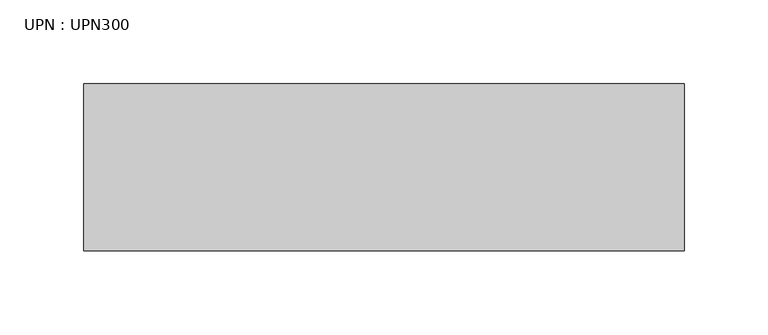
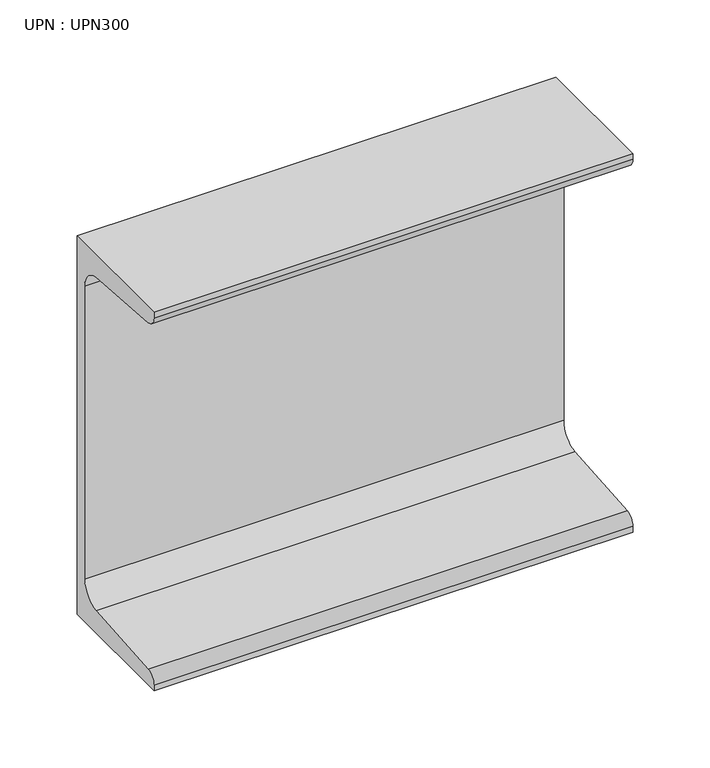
"""IFC4 building model written with IfcOpenShell, lengths in millimetres: beam geometry, UPN : UPN300."""

from ifc_helpers import new_model, si_unit, point, frame, frame_2d, origin, place, context, project, spatial, polyline, circle_curve, trimmed, segment, composite_curve, outline, extrude, source, transform, mapped, element, save


def upn_upn300_a5b5a8ee(model_context):
    return source(origin(), model_context, "Body", "SweptSolid", [
        extrude(outline(composite_curve([segment(polyline([(27.0, 150.0), (27.0, -150.0), (-73.0, -150.0), (-73.0, -145.3826224)]), True, "CONTINUOUS"), segment(trimmed(circle_curve(frame_2d((-65.0, -145.3826224)), 8.0), [point((-73.0, -145.3826224))], [point((-65.637416, -137.4080566))], False, "CARTESIAN"), True, "CONTINUOUS"), segment(polyline([(-65.637416, -137.4080566), (2.274832, -131.9797543)]), True, "CONTINUOUS"), segment(trimmed(circle_curve(frame_2d((1.0, -116.0306225)), 16.0), [point((2.274832, -131.9797543))], [point((17.0, -116.0306225))], True, "CARTESIAN"), True, "CONTINUOUS"), segment(polyline([(17.0, -116.0306225), (17.0, 116.0306225)]), True, "CONTINUOUS"), segment(trimmed(circle_curve(frame_2d((1.0, 116.0306225)), 16.0), [point((17.0, 116.0306225))], [point((2.274832, 131.9797543))], True, "CARTESIAN"), True, "CONTINUOUS"), segment(polyline([(2.274832, 131.9797543), (-65.637416, 137.4080566)]), True, "CONTINUOUS"), segment(trimmed(circle_curve(frame_2d((-65.0, 145.3826224)), 8.0), [point((-65.637416, 137.4080566))], [point((-73.0, 145.3826224))], False, "CARTESIAN"), True, "CONTINUOUS"), segment(polyline([(-73.0, 145.3826224), (-73.0, 150.0), (27.0, 150.0)]), True, "CONTINUOUS")], self_intersect=False)), frame((-187.95, 0.0, 0.0), z_axis=(1.0, 0.0, 0.0), x_axis=(0.0, 1.0, 0.0)), (0.0, 0.0, 1.0), 359.2),
    ])


if __name__ == "__main__":
    model = new_model("IFC4")
    model_context = context("Model", 3, world=origin())
    ifc_project = project(units=[si_unit("LENGTHUNIT", "METRE", prefix="MILLI")], contexts=[model_context])
    site = spatial("IfcSite", under=ifc_project)
    building = spatial("IfcBuilding", under=site)
    placement = place(None, origin())
    upn_upn300_shape = upn_upn300_a5b5a8ee(model_context)
    element("IfcBeam", 1, ObjectType="UPN : UPN300", at=placement, inside=building, context=model_context, shape_type="MappedRepresentation", body=[
        mapped(upn_upn300_shape, transform((0.0, 0.0, 0.0), x_axis=(1.0, 0.0, 0.0), y_axis=(0.0, 1.0, 0.0), z_axis=(0.0, 0.0, 1.0))),
    ])
    save(model, "model.ifc")
